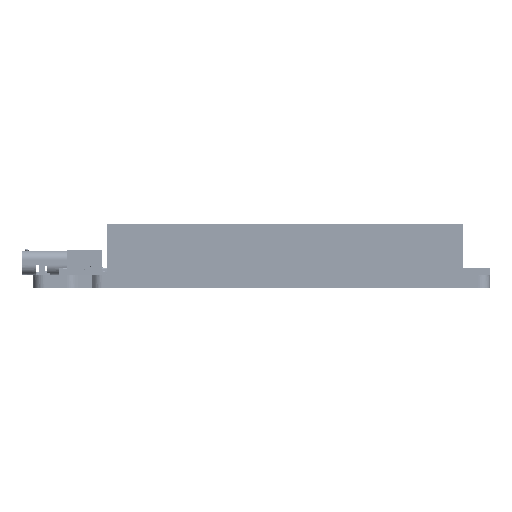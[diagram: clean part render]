
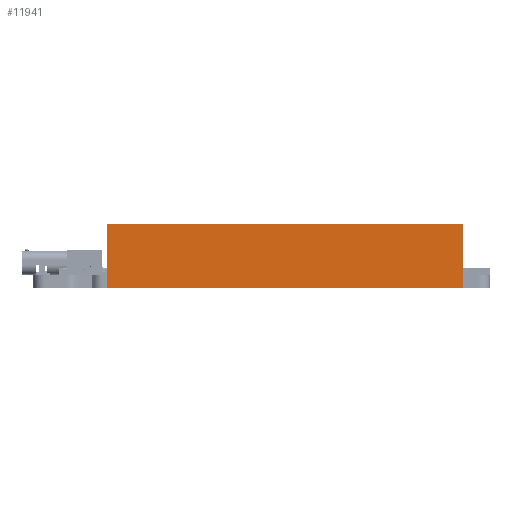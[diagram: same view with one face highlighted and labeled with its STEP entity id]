
A CAD part, left-side view. The second image highlights one B-rep face of the part: STEP entity #11941.
In plain terms, the highlighted planar face has unit normal (-1, 0, 0).
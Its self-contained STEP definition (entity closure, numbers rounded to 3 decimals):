
#11941=ADVANCED_FACE('',(#19967),#129597,.T.);
#19967=FACE_OUTER_BOUND('',#28375,.T.);
#28375=EDGE_LOOP('',(#68401,#68402,#68403,#68404));
#68401=ORIENTED_EDGE('',*,*,#89102,.T.);
#68402=ORIENTED_EDGE('',*,*,#89095,.T.);
#68403=ORIENTED_EDGE('',*,*,#89103,.F.);
#68404=ORIENTED_EDGE('',*,*,#89100,.F.);
#89095=EDGE_CURVE('',#122486,#122489,#109426,.T.);
#89100=EDGE_CURVE('',#122492,#122493,#109431,.T.);
#89102=EDGE_CURVE('',#122492,#122486,#109433,.T.);
#89103=EDGE_CURVE('',#122493,#122489,#109434,.T.);
#109426=B_SPLINE_CURVE_WITH_KNOTS('',1,(#302959,#302960),.UNSPECIFIED.,
 .F.,.F.,(2,2),(0.,8.3),.UNSPECIFIED.);
#109431=B_SPLINE_CURVE_WITH_KNOTS('',1,(#302969,#302970),.UNSPECIFIED.,
 .F.,.F.,(2,2),(0.,8.3),.UNSPECIFIED.);
#109433=B_SPLINE_CURVE_WITH_KNOTS('',1,(#302973,#302974),.UNSPECIFIED.,
 .F.,.F.,(2,2),(49.568,94.137),.UNSPECIFIED.);
#109434=B_SPLINE_CURVE_WITH_KNOTS('',1,(#302975,#302976),.UNSPECIFIED.,
 .F.,.F.,(2,2),(49.568,94.137),.UNSPECIFIED.);
#122486=VERTEX_POINT('',#302729);
#122489=VERTEX_POINT('',#302732);
#122492=VERTEX_POINT('',#302735);
#122493=VERTEX_POINT('',#302736);
#129597=PLANE('',#134454);
#134454=AXIS2_PLACEMENT_3D('',#302348,#139295,$);
#139295=DIRECTION('',(-1.,0.,0.));
#302348=CARTESIAN_POINT('',(-12.75,19.602,0.));
#302729=CARTESIAN_POINT('',(-12.75,-27.191,0.));
#302732=CARTESIAN_POINT('',(-12.75,-27.191,8.3));
#302735=CARTESIAN_POINT('',(-12.75,19.602,0.));
#302736=CARTESIAN_POINT('',(-12.75,19.602,8.3));
#302959=CARTESIAN_POINT('',(-12.75,-27.191,0.));
#302960=CARTESIAN_POINT('',(-12.75,-27.191,8.3));
#302969=CARTESIAN_POINT('',(-12.75,19.602,0.));
#302970=CARTESIAN_POINT('',(-12.75,19.602,8.3));
#302973=CARTESIAN_POINT('',(-12.75,19.602,0.));
#302974=CARTESIAN_POINT('',(-12.75,-27.191,0.));
#302975=CARTESIAN_POINT('',(-12.75,19.602,8.3));
#302976=CARTESIAN_POINT('',(-12.75,-27.191,8.3));
